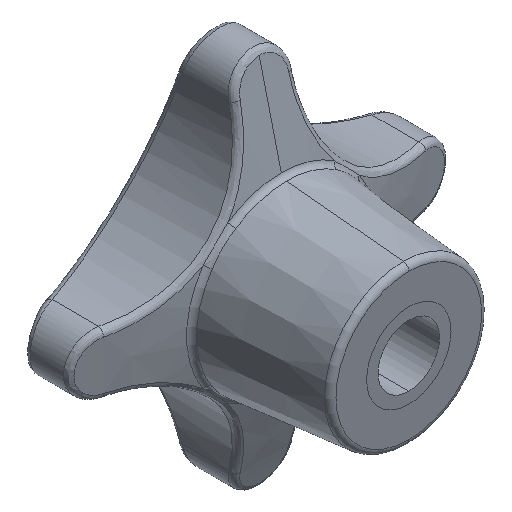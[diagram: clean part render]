
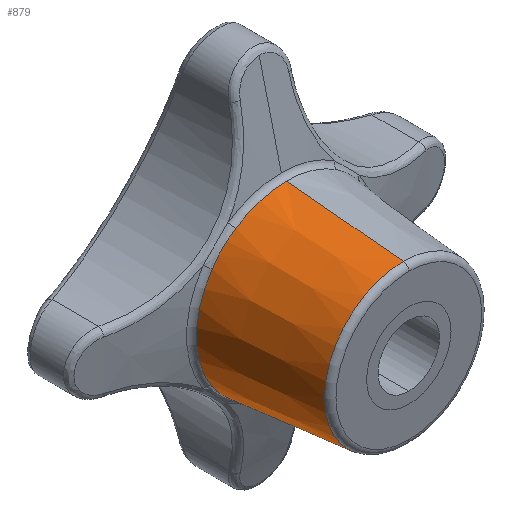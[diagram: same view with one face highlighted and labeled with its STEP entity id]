
A CAD part, isometric view. The second image highlights one B-rep face of the part: STEP entity #879.
In plain terms, the highlighted conical face has half-angle 5.44 degrees and reference radius 13 mm.
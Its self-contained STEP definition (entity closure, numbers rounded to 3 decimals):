
#619 = VERTEX_POINT ( 'NONE', #1552 ) ;
#673 = EDGE_CURVE ( 'NONE', #987, #692, #1716, .T. ) ;
#678 = EDGE_CURVE ( 'NONE', #988, #619, #1756, .T. ) ;
#692 = VERTEX_POINT ( 'NONE', #1808 ) ;
#863 = ORIENTED_EDGE ( 'NONE', *, *, #891, .T. ) ;
#864 = EDGE_CURVE ( 'NONE', #868, #619, #2383, .T. ) ;
#865 = VERTEX_POINT ( 'NONE', #2393 ) ;
#868 = VERTEX_POINT ( 'NONE', #2085 ) ;
#869 = ORIENTED_EDGE ( 'NONE', *, *, #871, .T. ) ;
#870 = ORIENTED_EDGE ( 'NONE', *, *, #678, .F. ) ;
#871 = EDGE_CURVE ( 'NONE', #692, #874, #1803, .T. ) ;
#872 = EDGE_CURVE ( 'NONE', #988, #987, #9180, .T. ) ;
#873 = ORIENTED_EDGE ( 'NONE', *, *, #872, .T. ) ;
#874 = VERTEX_POINT ( 'NONE', #2080 ) ;
#879 = ADVANCED_FACE ( 'NONE', ( #2456 ), #2448, .T. ) ;
#880 = ORIENTED_EDGE ( 'NONE', *, *, #673, .T. ) ;
#881 = EDGE_LOOP ( 'NONE', ( #870, #873, #880, #869, #889, #888, #863, #890 ) ) ;
#884 = VERTEX_POINT ( 'NONE', #2452 ) ;
#885 = EDGE_CURVE ( 'NONE', #865, #884, #2449, .T. ) ;
#888 = ORIENTED_EDGE ( 'NONE', *, *, #885, .T. ) ;
#889 = ORIENTED_EDGE ( 'NONE', *, *, #892, .T. ) ;
#890 = ORIENTED_EDGE ( 'NONE', *, *, #864, .T. ) ;
#891 = EDGE_CURVE ( 'NONE', #884, #868, #2438, .T. ) ;
#892 = EDGE_CURVE ( 'NONE', #874, #865, #2478, .T. ) ;
#987 = VERTEX_POINT ( 'NONE', #2630 ) ;
#988 = VERTEX_POINT ( 'NONE', #2669 ) ;
#1552 = CARTESIAN_POINT ( 'NONE',  ( 0., 20.291, -14.932 ) ) ;
#1715 = CARTESIAN_POINT ( 'NONE',  ( 0., 0., 13. ) ) ;
#1716 = LINE ( 'NONE', #1715, #1761 ) ;
#1750 = DIRECTION ( 'NONE',  ( 0., 0.995, -0.095 ) ) ;
#1751 = VECTOR ( 'NONE', #1750, 1000. ) ;
#1755 = CARTESIAN_POINT ( 'NONE',  ( 0., 0., -13. ) ) ;
#1756 = LINE ( 'NONE', #1755, #1751 ) ;
#1760 = DIRECTION ( 'NONE',  ( 0., 0.995, 0.095 ) ) ;
#1761 = VECTOR ( 'NONE', #1760, 1000. ) ;
#1794 = DIRECTION ( 'NONE',  ( 0., 0., 1. ) ) ;
#1795 = DIRECTION ( 'NONE',  ( 0., -1., 0. ) ) ;
#1803 = CIRCLE ( 'NONE', #1806, 14.932 ) ;
#1805 = CARTESIAN_POINT ( 'NONE',  ( 0., 20.291, 0. ) ) ;
#1806 = AXIS2_PLACEMENT_3D ( 'NONE', #1805, #1795, #1794 ) ;
#1808 = CARTESIAN_POINT ( 'NONE',  ( 0., 20.291, 14.932 ) ) ;
#2080 = CARTESIAN_POINT ( 'NONE',  ( -8.403, 20.291, 12.344 ) ) ;
#2085 = CARTESIAN_POINT ( 'NONE',  ( -8.403, 20.291, -12.344 ) ) ;
#2383 = CIRCLE ( 'NONE', #2430, 14.932 ) ;
#2387 = CARTESIAN_POINT ( 'NONE',  ( 0., 20.291, 0. ) ) ;
#2393 = CARTESIAN_POINT ( 'NONE',  ( -12.344, 20.291, 8.403 ) ) ;
#2428 = DIRECTION ( 'NONE',  ( 0., 0., 1. ) ) ;
#2429 = DIRECTION ( 'NONE',  ( 0., -1., 0. ) ) ;
#2430 = AXIS2_PLACEMENT_3D ( 'NONE', #2387, #2429, #2428 ) ;
#2434 = DIRECTION ( 'NONE',  ( 0., 0., 1. ) ) ;
#2435 = DIRECTION ( 'NONE',  ( 0., -1., 0. ) ) ;
#2436 = CARTESIAN_POINT ( 'NONE',  ( 0., 20.291, 0. ) ) ;
#2437 = AXIS2_PLACEMENT_3D ( 'NONE', #2436, #2435, #2434 ) ;
#2438 = B_SPLINE_CURVE_WITH_KNOTS ( 'NONE', 3,
 ( #2488, #2487, #2486, #2485, #2484, #2483, #2482, #2481, #2480, #2479 ),
 .UNSPECIFIED., .F., .F.,
 ( 4, 2, 2, 2, 4 ),
 ( 0., 0.001, 0.003, 0.004, 0.006 ),
 .UNSPECIFIED. ) ;
#2440 = DIRECTION ( 'NONE',  ( 0., 0., 1. ) ) ;
#2441 = AXIS2_PLACEMENT_3D ( 'NONE', #2447, #2450, #2440 ) ;
#2447 = CARTESIAN_POINT ( 'NONE',  ( 0., 0., 0. ) ) ;
#2448 = CONICAL_SURFACE ( 'NONE', #2441, 13., 0.095 ) ;
#2449 = CIRCLE ( 'NONE', #2437, 14.932 ) ;
#2450 = DIRECTION ( 'NONE',  ( 0., 1., 0. ) ) ;
#2452 = CARTESIAN_POINT ( 'NONE',  ( -12.344, 20.291, -8.403 ) ) ;
#2456 = FACE_OUTER_BOUND ( 'NONE', #881, .T. ) ;
#2465 = CARTESIAN_POINT ( 'NONE',  ( -12.344, 20.291, 8.403 ) ) ;
#2466 = CARTESIAN_POINT ( 'NONE',  ( -12.08, 20.291, 8.791 ) ) ;
#2467 = CARTESIAN_POINT ( 'NONE',  ( -11.801, 20.309, 9.164 ) ) ;
#2468 = CARTESIAN_POINT ( 'NONE',  ( -11.21, 20.342, 9.883 ) ) ;
#2469 = CARTESIAN_POINT ( 'NONE',  ( -10.898, 20.355, 10.228 ) ) ;
#2470 = CARTESIAN_POINT ( 'NONE',  ( -10.239, 20.355, 10.888 ) ) ;
#2471 = CARTESIAN_POINT ( 'NONE',  ( -9.891, 20.342, 11.203 ) ) ;
#2472 = CARTESIAN_POINT ( 'NONE',  ( -9.167, 20.309, 11.799 ) ) ;
#2473 = CARTESIAN_POINT ( 'NONE',  ( -8.791, 20.291, 12.079 ) ) ;
#2474 = CARTESIAN_POINT ( 'NONE',  ( -8.403, 20.291, 12.344 ) ) ;
#2478 = B_SPLINE_CURVE_WITH_KNOTS ( 'NONE', 3,
 ( #2474, #2473, #2472, #2471, #2470, #2469, #2468, #2467, #2466, #2465 ),
 .UNSPECIFIED., .F., .F.,
 ( 4, 2, 2, 2, 4 ),
 ( 0., 0.001, 0.003, 0.004, 0.006 ),
 .UNSPECIFIED. ) ;
#2479 = CARTESIAN_POINT ( 'NONE',  ( -8.403, 20.291, -12.344 ) ) ;
#2480 = CARTESIAN_POINT ( 'NONE',  ( -8.791, 20.291, -12.08 ) ) ;
#2481 = CARTESIAN_POINT ( 'NONE',  ( -9.164, 20.309, -11.801 ) ) ;
#2482 = CARTESIAN_POINT ( 'NONE',  ( -9.883, 20.342, -11.21 ) ) ;
#2483 = CARTESIAN_POINT ( 'NONE',  ( -10.228, 20.355, -10.898 ) ) ;
#2484 = CARTESIAN_POINT ( 'NONE',  ( -10.888, 20.355, -10.239 ) ) ;
#2485 = CARTESIAN_POINT ( 'NONE',  ( -11.203, 20.342, -9.891 ) ) ;
#2486 = CARTESIAN_POINT ( 'NONE',  ( -11.799, 20.309, -9.167 ) ) ;
#2487 = CARTESIAN_POINT ( 'NONE',  ( -12.079, 20.291, -8.791 ) ) ;
#2488 = CARTESIAN_POINT ( 'NONE',  ( -12.344, 20.291, -8.403 ) ) ;
#2630 = CARTESIAN_POINT ( 'NONE',  ( 0., 0.905, 13.086 ) ) ;
#2669 = CARTESIAN_POINT ( 'NONE',  ( 0., 0.905, -13.086 ) ) ;
#9177 = DIRECTION ( 'NONE',  ( 0., 0., -1. ) ) ;
#9178 = DIRECTION ( 'NONE',  ( 0., 1., 0. ) ) ;
#9179 = AXIS2_PLACEMENT_3D ( 'NONE', #9181, #9178, #9177 ) ;
#9180 = CIRCLE ( 'NONE', #9179, 13.086 ) ;
#9181 = CARTESIAN_POINT ( 'NONE',  ( 0., 0.905, 0. ) ) ;
